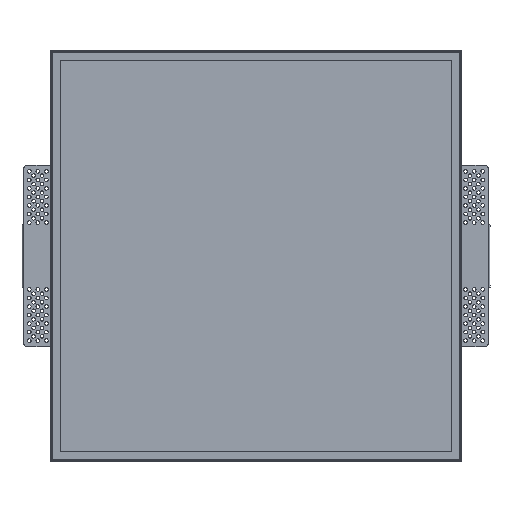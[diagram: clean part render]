
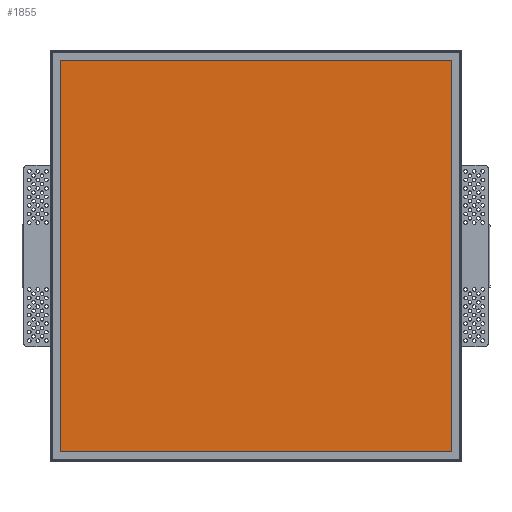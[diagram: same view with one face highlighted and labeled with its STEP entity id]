
A CAD part, front view. The second image highlights one B-rep face of the part: STEP entity #1855.
In plain terms, the highlighted planar face has unit normal (0, -1, 0).
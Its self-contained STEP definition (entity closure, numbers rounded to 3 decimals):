
#1855=ADVANCED_FACE('',(#3588),#24242,.T.);
#3588=FACE_OUTER_BOUND('',#5505,.T.);
#5505=EDGE_LOOP('',(#12188,#12189,#12190,#12191,#12192,#12193,#12194,#12195));
#12188=ORIENTED_EDGE('',*,*,#16986,.F.);
#12189=ORIENTED_EDGE('',*,*,#16982,.T.);
#12190=ORIENTED_EDGE('',*,*,#16988,.F.);
#12191=ORIENTED_EDGE('',*,*,#16970,.T.);
#12192=ORIENTED_EDGE('',*,*,#16992,.F.);
#12193=ORIENTED_EDGE('',*,*,#16976,.T.);
#12194=ORIENTED_EDGE('',*,*,#16990,.F.);
#12195=ORIENTED_EDGE('',*,*,#16980,.T.);
#16970=EDGE_CURVE('',#23476,#23477,#19465,.T.);
#16976=EDGE_CURVE('',#23483,#23482,#19471,.T.);
#16980=EDGE_CURVE('',#23487,#23486,#19475,.T.);
#16982=EDGE_CURVE('',#23488,#23489,#19477,.T.);
#16986=EDGE_CURVE('',#23488,#23486,#21318,.T.);
#16988=EDGE_CURVE('',#23476,#23489,#21320,.T.);
#16990=EDGE_CURVE('',#23487,#23482,#21322,.T.);
#16992=EDGE_CURVE('',#23483,#23477,#21324,.T.);
#19465=B_SPLINE_CURVE_WITH_KNOTS('',1,(#61261,#61262),.UNSPECIFIED.,.F.,
 .F.,(2,2),(-277.,0.),.UNSPECIFIED.);
#19471=B_SPLINE_CURVE_WITH_KNOTS('',1,(#61273,#61274),.UNSPECIFIED.,.F.,
 .F.,(2,2),(-277.,0.),.UNSPECIFIED.);
#19475=B_SPLINE_CURVE_WITH_KNOTS('',1,(#61281,#61282),.UNSPECIFIED.,.F.,
 .F.,(2,2),(-277.,0.),.UNSPECIFIED.);
#19477=B_SPLINE_CURVE_WITH_KNOTS('',1,(#61285,#61286),.UNSPECIFIED.,.F.,
 .F.,(2,2),(-277.,0.),.UNSPECIFIED.);
#21318=(
BOUNDED_CURVE()
B_SPLINE_CURVE(2,(#61293,#61294,#61295),.UNSPECIFIED.,.F.,.F.)
B_SPLINE_CURVE_WITH_KNOTS((3,3),(0.,2.356),.UNSPECIFIED.)
CURVE()
GEOMETRIC_REPRESENTATION_ITEM()
RATIONAL_B_SPLINE_CURVE((1.,0.707,1.))
REPRESENTATION_ITEM('')
);
#21320=(
BOUNDED_CURVE()
B_SPLINE_CURVE(2,(#61299,#61300,#61301),.UNSPECIFIED.,.F.,.F.)
B_SPLINE_CURVE_WITH_KNOTS((3,3),(0.,2.356),.UNSPECIFIED.)
CURVE()
GEOMETRIC_REPRESENTATION_ITEM()
RATIONAL_B_SPLINE_CURVE((1.,0.707,1.))
REPRESENTATION_ITEM('')
);
#21322=(
BOUNDED_CURVE()
B_SPLINE_CURVE(2,(#61305,#61306,#61307),.UNSPECIFIED.,.F.,.F.)
B_SPLINE_CURVE_WITH_KNOTS((3,3),(0.,2.356),.UNSPECIFIED.)
CURVE()
GEOMETRIC_REPRESENTATION_ITEM()
RATIONAL_B_SPLINE_CURVE((1.,0.707,1.))
REPRESENTATION_ITEM('')
);
#21324=(
BOUNDED_CURVE()
B_SPLINE_CURVE(2,(#61311,#61312,#61313),.UNSPECIFIED.,.F.,.F.)
B_SPLINE_CURVE_WITH_KNOTS((3,3),(0.,2.356),.UNSPECIFIED.)
CURVE()
GEOMETRIC_REPRESENTATION_ITEM()
RATIONAL_B_SPLINE_CURVE((1.,0.707,1.))
REPRESENTATION_ITEM('')
);
#23476=VERTEX_POINT('',#61245);
#23477=VERTEX_POINT('',#61246);
#23482=VERTEX_POINT('',#61251);
#23483=VERTEX_POINT('',#61252);
#23486=VERTEX_POINT('',#61255);
#23487=VERTEX_POINT('',#61256);
#23488=VERTEX_POINT('',#61257);
#23489=VERTEX_POINT('',#61258);
#24242=PLANE('',#25985);
#25985=AXIS2_PLACEMENT_3D('',#61171,#26270,$);
#26270=DIRECTION('',(0.,-1.,0.));
#61171=CARTESIAN_POINT('',(-168.,-40.825,127.175));
#61245=CARTESIAN_POINT('',(-140.,-40.825,97.675));
#61246=CARTESIAN_POINT('',(-140.,-40.825,-179.325));
#61251=CARTESIAN_POINT('',(138.5,-40.825,-180.825));
#61252=CARTESIAN_POINT('',(-138.5,-40.825,-180.825));
#61255=CARTESIAN_POINT('',(140.,-40.825,97.675));
#61256=CARTESIAN_POINT('',(140.,-40.825,-179.325));
#61257=CARTESIAN_POINT('',(138.5,-40.825,99.175));
#61258=CARTESIAN_POINT('',(-138.5,-40.825,99.175));
#61261=CARTESIAN_POINT('',(-140.,-40.825,97.675));
#61262=CARTESIAN_POINT('',(-140.,-40.825,-179.325));
#61273=CARTESIAN_POINT('',(-138.5,-40.825,-180.825));
#61274=CARTESIAN_POINT('',(138.5,-40.825,-180.825));
#61281=CARTESIAN_POINT('',(140.,-40.825,-179.325));
#61282=CARTESIAN_POINT('',(140.,-40.825,97.675));
#61285=CARTESIAN_POINT('',(138.5,-40.825,99.175));
#61286=CARTESIAN_POINT('',(-138.5,-40.825,99.175));
#61293=CARTESIAN_POINT('',(138.5,-40.825,99.175));
#61294=CARTESIAN_POINT('',(140.,-40.825,99.175));
#61295=CARTESIAN_POINT('',(140.,-40.825,97.675));
#61299=CARTESIAN_POINT('',(-140.,-40.825,97.675));
#61300=CARTESIAN_POINT('',(-140.,-40.825,99.175));
#61301=CARTESIAN_POINT('',(-138.5,-40.825,99.175));
#61305=CARTESIAN_POINT('',(140.,-40.825,-179.325));
#61306=CARTESIAN_POINT('',(140.,-40.825,-180.825));
#61307=CARTESIAN_POINT('',(138.5,-40.825,-180.825));
#61311=CARTESIAN_POINT('',(-138.5,-40.825,-180.825));
#61312=CARTESIAN_POINT('',(-140.,-40.825,-180.825));
#61313=CARTESIAN_POINT('',(-140.,-40.825,-179.325));
